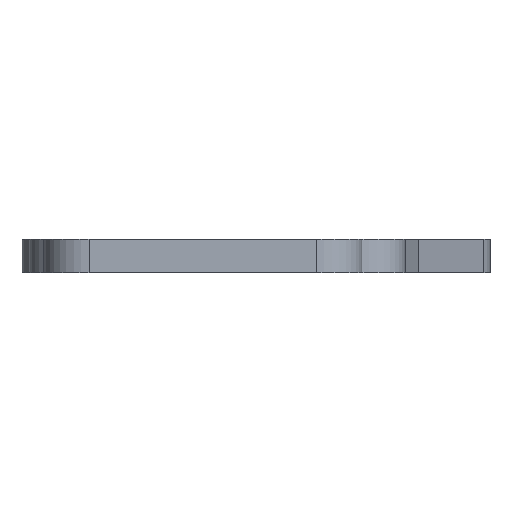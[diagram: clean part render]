
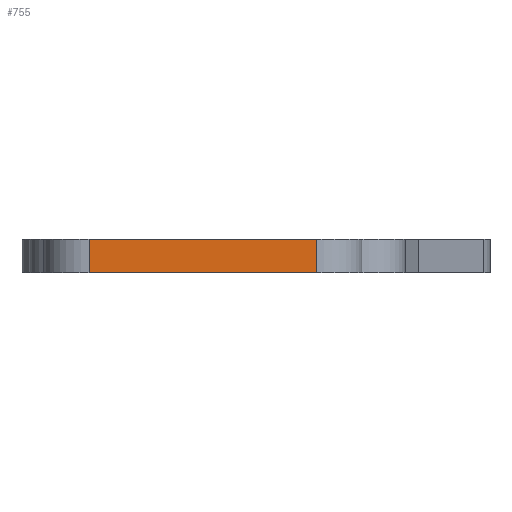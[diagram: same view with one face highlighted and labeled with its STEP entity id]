
A CAD part, left-side view. The second image highlights one B-rep face of the part: STEP entity #755.
In plain terms, the highlighted planar face has unit normal (-1, 0, 0).
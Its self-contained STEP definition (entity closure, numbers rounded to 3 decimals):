
#45 = PLANE('',#46);
#46 = AXIS2_PLACEMENT_3D('',#47,#48,#49);
#47 = CARTESIAN_POINT('',(221.594,-111.818,13.));
#48 = DIRECTION('',(0.,0.,1.));
#49 = DIRECTION('',(1.,0.,0.));
#102 = PLANE('',#103);
#103 = AXIS2_PLACEMENT_3D('',#104,#105,#106);
#104 = CARTESIAN_POINT('',(221.594,-111.818,24.));
#105 = DIRECTION('',(0.,0.,1.));
#106 = DIRECTION('',(1.,0.,0.));
#666 = CYLINDRICAL_SURFACE('',#667,15.);
#667 = AXIS2_PLACEMENT_3D('',#668,#669,#670);
#668 = CARTESIAN_POINT('',(138.125,-65.,13.));
#669 = DIRECTION('',(-0.,-0.,-1.));
#670 = DIRECTION('',(0.,1.,0.));
#682 = VERTEX_POINT('',#683);
#683 = CARTESIAN_POINT('',(123.125,-65.,13.));
#707 = VERTEX_POINT('',#708);
#708 = CARTESIAN_POINT('',(123.125,-65.,24.));
#730 = EDGE_CURVE('',#682,#707,#731,.T.);
#731 = SURFACE_CURVE('',#732,(#736,#743),.PCURVE_S1.);
#732 = LINE('',#733,#734);
#733 = CARTESIAN_POINT('',(123.125,-65.,13.));
#734 = VECTOR('',#735,1.);
#735 = DIRECTION('',(0.,0.,1.));
#736 = PCURVE('',#666,#737);
#737 = DEFINITIONAL_REPRESENTATION('',(#738),#742);
#738 = LINE('',#739,#740);
#739 = CARTESIAN_POINT('',(-1.571,0.));
#740 = VECTOR('',#741,1.);
#741 = DIRECTION('',(-0.,-1.));
#742 = ( GEOMETRIC_REPRESENTATION_CONTEXT(2) 
PARAMETRIC_REPRESENTATION_CONTEXT() REPRESENTATION_CONTEXT('2D SPACE',''
  ) );
#743 = PCURVE('',#744,#749);
#744 = PLANE('',#745);
#745 = AXIS2_PLACEMENT_3D('',#746,#747,#748);
#746 = CARTESIAN_POINT('',(123.125,-65.,13.));
#747 = DIRECTION('',(1.,0.,0.));
#748 = DIRECTION('',(0.,-1.,0.));
#749 = DEFINITIONAL_REPRESENTATION('',(#750),#754);
#750 = LINE('',#751,#752);
#751 = CARTESIAN_POINT('',(0.,0.));
#752 = VECTOR('',#753,1.);
#753 = DIRECTION('',(0.,-1.));
#754 = ( GEOMETRIC_REPRESENTATION_CONTEXT(2) 
PARAMETRIC_REPRESENTATION_CONTEXT() REPRESENTATION_CONTEXT('2D SPACE',''
  ) );
#755 = ADVANCED_FACE('',(#756),#744,.F.);
#756 = FACE_BOUND('',#757,.F.);
#757 = EDGE_LOOP('',(#758,#781,#782,#805));
#758 = ORIENTED_EDGE('',*,*,#759,.F.);
#759 = EDGE_CURVE('',#682,#760,#762,.T.);
#760 = VERTEX_POINT('',#761);
#761 = CARTESIAN_POINT('',(123.125,-140.,13.));
#762 = SURFACE_CURVE('',#763,(#767,#774),.PCURVE_S1.);
#763 = LINE('',#764,#765);
#764 = CARTESIAN_POINT('',(123.125,-65.,13.));
#765 = VECTOR('',#766,1.);
#766 = DIRECTION('',(0.,-1.,0.));
#767 = PCURVE('',#744,#768);
#768 = DEFINITIONAL_REPRESENTATION('',(#769),#773);
#769 = LINE('',#770,#771);
#770 = CARTESIAN_POINT('',(0.,0.));
#771 = VECTOR('',#772,1.);
#772 = DIRECTION('',(1.,0.));
#773 = ( GEOMETRIC_REPRESENTATION_CONTEXT(2) 
PARAMETRIC_REPRESENTATION_CONTEXT() REPRESENTATION_CONTEXT('2D SPACE',''
  ) );
#774 = PCURVE('',#45,#775);
#775 = DEFINITIONAL_REPRESENTATION('',(#776),#780);
#776 = LINE('',#777,#778);
#777 = CARTESIAN_POINT('',(-98.469,46.818));
#778 = VECTOR('',#779,1.);
#779 = DIRECTION('',(0.,-1.));
#780 = ( GEOMETRIC_REPRESENTATION_CONTEXT(2) 
PARAMETRIC_REPRESENTATION_CONTEXT() REPRESENTATION_CONTEXT('2D SPACE',''
  ) );
#781 = ORIENTED_EDGE('',*,*,#730,.T.);
#782 = ORIENTED_EDGE('',*,*,#783,.T.);
#783 = EDGE_CURVE('',#707,#784,#786,.T.);
#784 = VERTEX_POINT('',#785);
#785 = CARTESIAN_POINT('',(123.125,-140.,24.));
#786 = SURFACE_CURVE('',#787,(#791,#798),.PCURVE_S1.);
#787 = LINE('',#788,#789);
#788 = CARTESIAN_POINT('',(123.125,-65.,24.));
#789 = VECTOR('',#790,1.);
#790 = DIRECTION('',(0.,-1.,0.));
#791 = PCURVE('',#744,#792);
#792 = DEFINITIONAL_REPRESENTATION('',(#793),#797);
#793 = LINE('',#794,#795);
#794 = CARTESIAN_POINT('',(0.,-11.));
#795 = VECTOR('',#796,1.);
#796 = DIRECTION('',(1.,0.));
#797 = ( GEOMETRIC_REPRESENTATION_CONTEXT(2) 
PARAMETRIC_REPRESENTATION_CONTEXT() REPRESENTATION_CONTEXT('2D SPACE',''
  ) );
#798 = PCURVE('',#102,#799);
#799 = DEFINITIONAL_REPRESENTATION('',(#800),#804);
#800 = LINE('',#801,#802);
#801 = CARTESIAN_POINT('',(-98.469,46.818));
#802 = VECTOR('',#803,1.);
#803 = DIRECTION('',(0.,-1.));
#804 = ( GEOMETRIC_REPRESENTATION_CONTEXT(2) 
PARAMETRIC_REPRESENTATION_CONTEXT() REPRESENTATION_CONTEXT('2D SPACE',''
  ) );
#805 = ORIENTED_EDGE('',*,*,#806,.F.);
#806 = EDGE_CURVE('',#760,#784,#807,.T.);
#807 = SURFACE_CURVE('',#808,(#812,#819),.PCURVE_S1.);
#808 = LINE('',#809,#810);
#809 = CARTESIAN_POINT('',(123.125,-140.,13.));
#810 = VECTOR('',#811,1.);
#811 = DIRECTION('',(0.,0.,1.));
#812 = PCURVE('',#744,#813);
#813 = DEFINITIONAL_REPRESENTATION('',(#814),#818);
#814 = LINE('',#815,#816);
#815 = CARTESIAN_POINT('',(75.,0.));
#816 = VECTOR('',#817,1.);
#817 = DIRECTION('',(0.,-1.));
#818 = ( GEOMETRIC_REPRESENTATION_CONTEXT(2) 
PARAMETRIC_REPRESENTATION_CONTEXT() REPRESENTATION_CONTEXT('2D SPACE',''
  ) );
#819 = PCURVE('',#820,#825);
#820 = CYLINDRICAL_SURFACE('',#821,15.);
#821 = AXIS2_PLACEMENT_3D('',#822,#823,#824);
#822 = CARTESIAN_POINT('',(138.125,-140.,13.));
#823 = DIRECTION('',(-0.,-0.,-1.));
#824 = DIRECTION('',(-1.,0.,0.));
#825 = DEFINITIONAL_REPRESENTATION('',(#826),#830);
#826 = LINE('',#827,#828);
#827 = CARTESIAN_POINT('',(-0.,0.));
#828 = VECTOR('',#829,1.);
#829 = DIRECTION('',(-0.,-1.));
#830 = ( GEOMETRIC_REPRESENTATION_CONTEXT(2) 
PARAMETRIC_REPRESENTATION_CONTEXT() REPRESENTATION_CONTEXT('2D SPACE',''
  ) );
